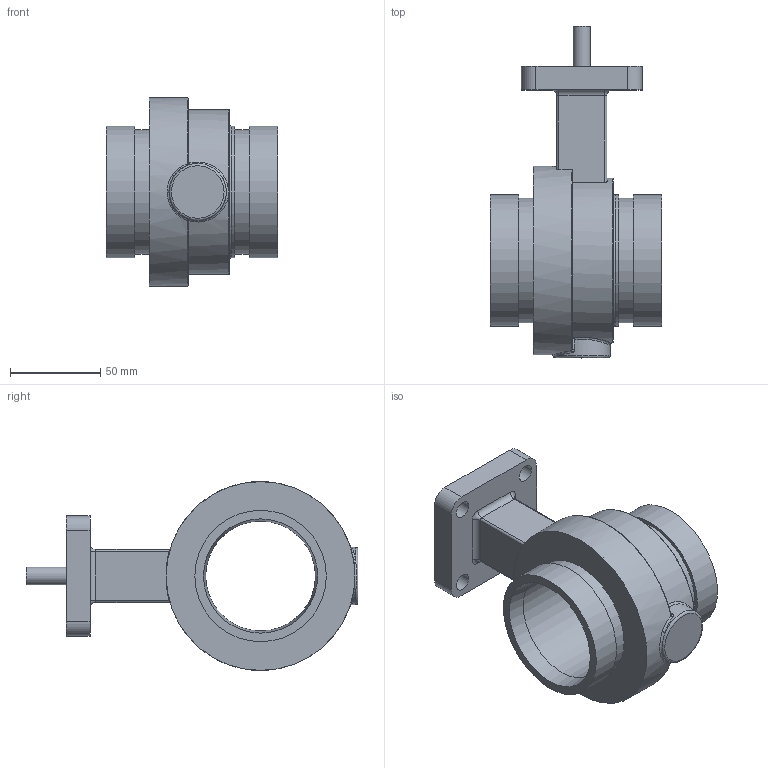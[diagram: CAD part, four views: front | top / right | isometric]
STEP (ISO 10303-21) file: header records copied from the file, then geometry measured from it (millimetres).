
FILE_DESCRIPTION(/* description */ ('Vic Series 461 Vic-300 MasterSeal SS Butterfly Valve','CAx-IF Rec.Pracs.---Representation and Presentation of Product Manufacturing Information (PMI)---4.0---2014-10-13'),/* implementation_level */ '2;1');
FILE_NAME(/* name */ 'C:\Users\kkamble\AppData\Roaming\Autodesk\ApplicationPlugins\Back Up\Victaulic_SS-OGS_Valve Butterfly Vic-300 Masterseal Bare_Series 461 (OGS)\Victaulic_SS-OGS_Valve Butterfly Vic-300 Masterseal Bare_Series 461 (OGS)_2.5 (65).stp',/* time_stamp */ '2020-09-02T14:48:11+05:00',/* author */ ('mchristi'),/* organization */ ('Victaulic'),/* preprocessor_version */ 'ST-DEVELOPER v17.2',/* originating_system */ 'Autodesk Inventor 2019',/* authorisation */ '');
FILE_SCHEMA (('AP242_MANAGED_MODEL_BASED_3D_ENGINEERING_MIM_LF { 1 0 10303 442 1 1 4 }'));
Length unit declared in the file: inch
Products named in the file (1): 461-02.5
Bounding box: 95.25 x 184.4 x 104.9 mm (x, y, z)
Volume: 356450.7 mm3; surface area: 74341.3 mm2
Topology: 1 solids, 1 shells, 90 faces, 221 edges, 139 vertices
Faces by surface type: cylinder 35, plane 22, bspline 16, torus 13, sphere 2, cone 2
Full cylindrical faces by diameter (mm): 9.652 x5, 54.102 x1, 60.96 x1, 69.088 x2, 73.025 x3, 91.44 x1, 104.902 x1
Entity records: 3424 total; most frequent: CARTESIAN_POINT 1091, DIRECTION 480, ORIENTED_EDGE 438, EDGE_CURVE 219, AXIS2_PLACEMENT_3D 208, VERTEX_POINT 139, CIRCLE 120, EDGE_LOOP 108
